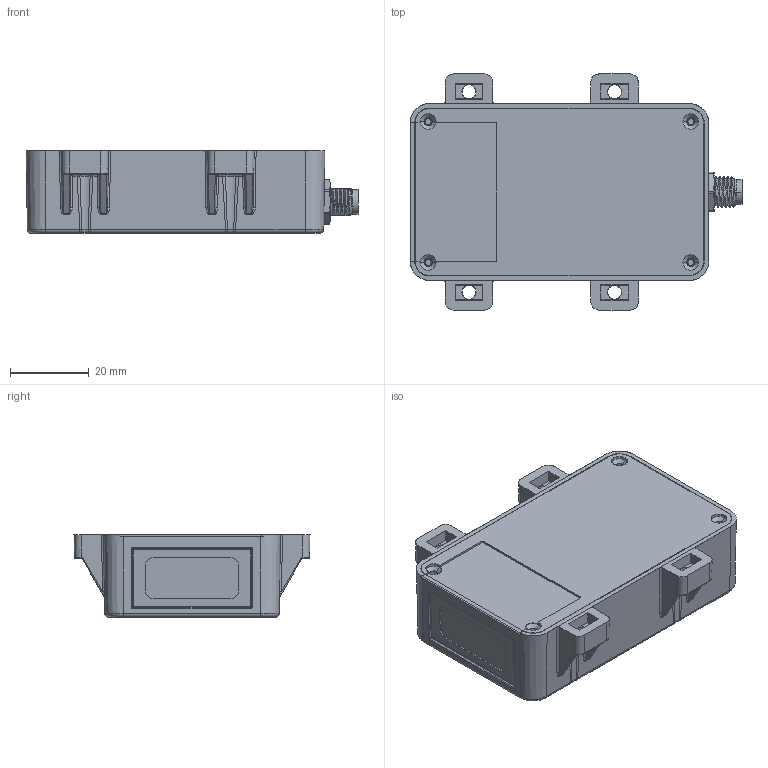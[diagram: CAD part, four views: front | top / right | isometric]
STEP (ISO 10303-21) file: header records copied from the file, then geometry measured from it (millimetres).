
FILE_DESCRIPTION((''),'2;1');
FILE_NAME('SENSOR-ASM_ASM','2020-02-25T',('hegong'),(''),'PRO/ENGINEER BY PARAMETRIC TECHNOLOGY CORPORATION, 2009360','PRO/ENGINEER BY PARAMETRIC TECHNOLOGY CORPORATION, 2009360','');
FILE_SCHEMA(('AUTOMOTIVE_DESIGN_CC2 { 1 2 10303 214 -1 1 5 2 }'));
Length unit declared in the file: millimetre
Products named in the file (10): BASE-UP_186; JINGPIAN_17; M2-6_1; BASE-DOWN_32; XS6-B_22; O-RING_4; NUT_6; M8-LJQ_ASM_14_ASM; PET_5; SENSOR-ASM_ASM
Assembly tree (10 placements, depth 3):
  SENSOR-ASM_ASM
    BASE-UP_186
    JINGPIAN_17
    M2-6_1  x2
    BASE-DOWN_32
    M8-LJQ_ASM_14_ASM
      XS6-B_22
      O-RING_4
      NUT_6
    PET_5
Bounding box: 84.4 x 60 x 21 mm (x, y, z)
Volume: 30274.5 mm3; surface area: 32433.9 mm2
Topology: 9 solids, 22 shells, 1089 faces, 3167 edges, 2145 vertices
Faces by surface type: plane 449, cylinder 340, bspline 123, cone 84, torus 68, extrusion 15, sphere 10
Entity records: 46084 total; most frequent: CARTESIAN_POINT 17799, ORIENTED_EDGE 5860, DIRECTION 5108, EDGE_CURVE 3081, VERTEX_POINT 2093, AXIS2_PLACEMENT_3D 1781, VECTOR 1546, LINE 1531
